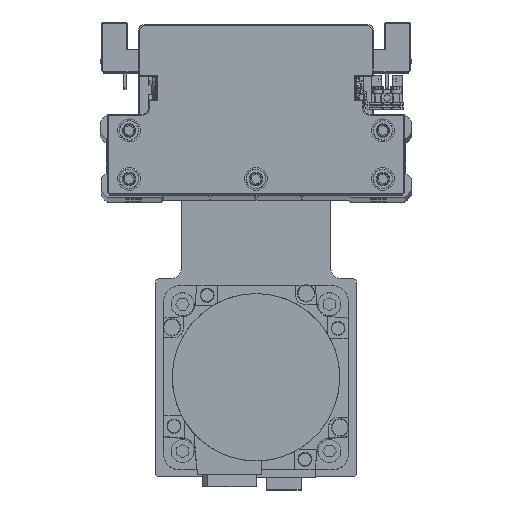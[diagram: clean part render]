
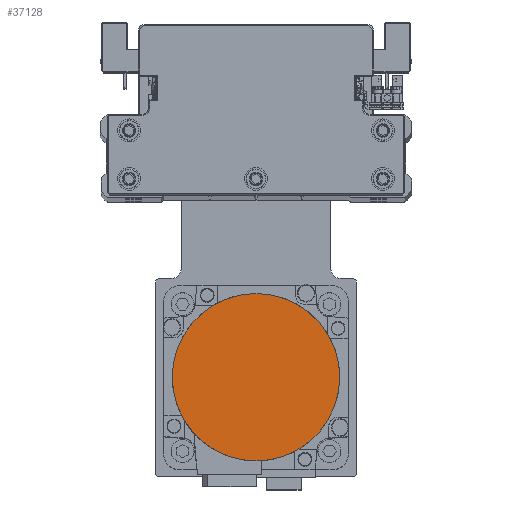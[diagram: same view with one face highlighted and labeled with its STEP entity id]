
A CAD part, top view. The second image highlights one B-rep face of the part: STEP entity #37128.
In plain terms, the highlighted planar face has unit normal (0, 0, 1) as drawn and (0, 0, -1) by its records, which use the part's own axes.
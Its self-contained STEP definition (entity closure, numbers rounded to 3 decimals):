
#1686 = ORIENTED_EDGE ( 'NONE', *, *, #21743, .F. ) ;
#2057 = CARTESIAN_POINT ( 'NONE',  ( 0., 36.3, -122.2 ) ) ;
#2527 = VERTEX_POINT ( 'NONE', #2057 ) ;
#2726 = FACE_OUTER_BOUND ( 'NONE', #8290, .T. ) ;
#3116 = CIRCLE ( 'NONE', #26066, 36.3 ) ;
#4224 = DIRECTION ( 'NONE',  ( 0., 1., 0. ) ) ;
#4874 = CARTESIAN_POINT ( 'NONE',  ( 0., 0., -122.2 ) ) ;
#8290 = EDGE_LOOP ( 'NONE', ( #1686, #38318 ) ) ;
#9136 = CARTESIAN_POINT ( 'NONE',  ( 0., -36.3, -122.2 ) ) ;
#10046 = CIRCLE ( 'NONE', #33035, 36.3 ) ;
#10469 = VERTEX_POINT ( 'NONE', #9136 ) ;
#12154 = DIRECTION ( 'NONE',  ( 1., 0., 0. ) ) ;
#15228 = PLANE ( 'NONE',  #15629 ) ;
#15629 = AXIS2_PLACEMENT_3D ( 'NONE', #27782, #40324, #12154 ) ;
#17388 = DIRECTION ( 'NONE',  ( 0., 0., 1. ) ) ;
#18731 = EDGE_CURVE ( 'NONE', #10469, #2527, #10046, .T. ) ;
#19826 = CARTESIAN_POINT ( 'NONE',  ( 0., 0., -122.2 ) ) ;
#21743 = EDGE_CURVE ( 'NONE', #2527, #10469, #3116, .T. ) ;
#26066 = AXIS2_PLACEMENT_3D ( 'NONE', #19826, #32368, #4224 ) ;
#27782 = CARTESIAN_POINT ( 'NONE',  ( 0., 0., -122.2 ) ) ;
#29952 = DIRECTION ( 'NONE',  ( 0., -1., 0. ) ) ;
#32368 = DIRECTION ( 'NONE',  ( 0., 0., 1. ) ) ;
#33035 = AXIS2_PLACEMENT_3D ( 'NONE', #4874, #17388, #29952 ) ;
#37128 = ADVANCED_FACE ( 'NONE', ( #2726 ), #15228, .F. ) ;
#38318 = ORIENTED_EDGE ( 'NONE', *, *, #18731, .F. ) ;
#40324 = DIRECTION ( 'NONE',  ( 0., 0., 1. ) ) ;
